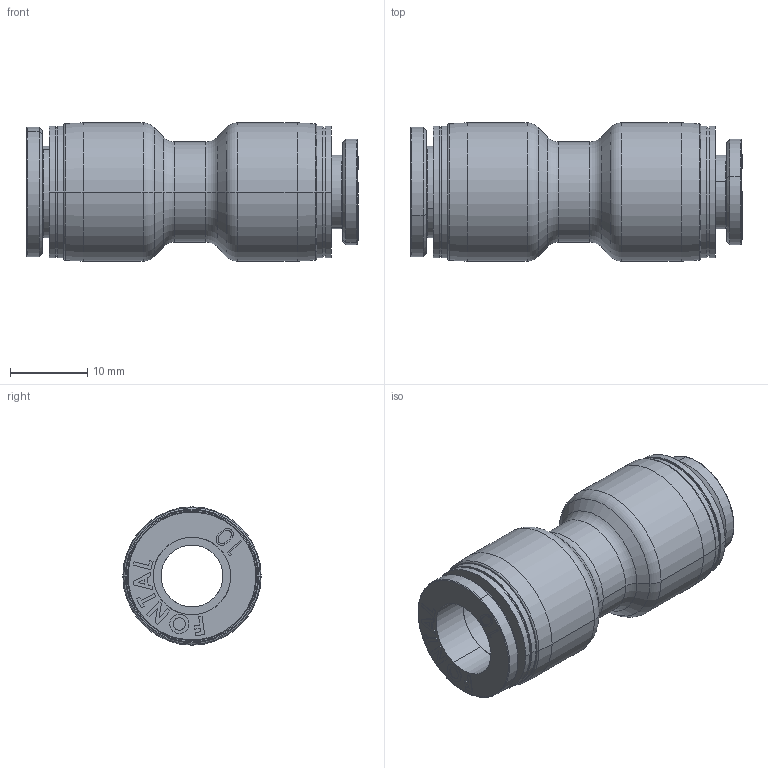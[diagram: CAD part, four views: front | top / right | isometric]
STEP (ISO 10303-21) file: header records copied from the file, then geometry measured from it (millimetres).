
FILE_DESCRIPTION (( 'STEP AP203' ), '1' );
FILE_NAME ('FPG10-8.STEP', '2016-01-14T20:59:05', ( '' ), ( '' ), 'SwSTEP 2.0', 'SolidWorks 2014', '' );
FILE_SCHEMA (( 'CONFIG_CONTROL_DESIGN' ));
Length unit declared in the file: millimetre
Products named in the file (4): FPG10-8-B; FPC10-02-A; FPC8-01-A; FPG10-8
Assembly tree (3 placements, depth 2):
  FPG10-8
    FPG10-8-B
    FPC10-02-A
    FPC8-01-A
Bounding box: 42.87 x 17.85 x 17.85 mm (x, y, z)
Volume: 6255.1 mm3; surface area: 4571.9 mm2
Topology: 3 solids, 3 shells, 250 faces, 600 edges, 388 vertices
Faces by surface type: plane 134, bspline 46, cylinder 38, torus 20, cone 12
Entity records: 10480 total; most frequent: CARTESIAN_POINT 4434, ORIENTED_EDGE 1200, DIRECTION 1058, EDGE_CURVE 600, VERTEX_POINT 388, LINE 382, VECTOR 382, AXIS2_PLACEMENT_3D 338
